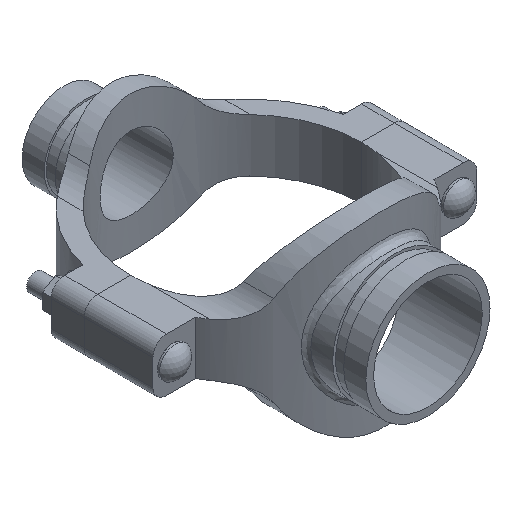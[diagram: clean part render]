
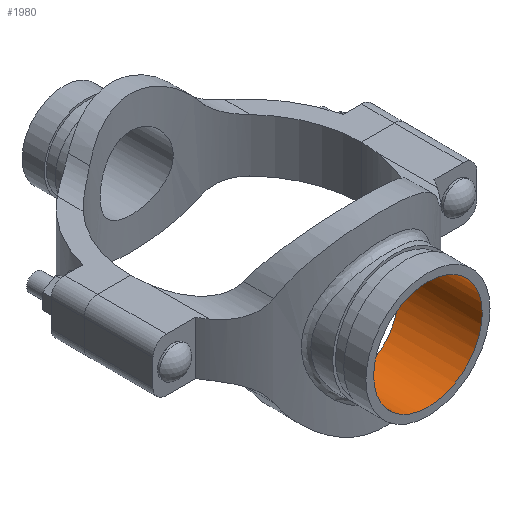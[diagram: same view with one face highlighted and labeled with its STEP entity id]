
A CAD part, isometric view. The second image highlights one B-rep face of the part: STEP entity #1980.
In plain terms, the highlighted cylindrical face has radius 38.894 mm (diameter 77.787 mm), a full revolution.
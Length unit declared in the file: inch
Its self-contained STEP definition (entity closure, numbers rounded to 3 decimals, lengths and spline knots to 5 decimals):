
#50=B_SPLINE_CURVE_WITH_KNOTS('',3,(#4024,#4025,#4026,#4027,#4028,#4029,
#4030,#4031,#4032,#4033,#4034,#4035,#4036,#4037,#4038,#4039,#4040,#4041,
#4042,#4043,#4044,#4045,#4046,#4047,#4048,#4049,#4050,#4051,#4052,#4053,
#4054,#4055,#4056,#4057,#4058,#4059,#4060,#4061,#4062,#4063,#4064,#4065,
#4066,#4067,#4068,#4069,#4070,#4071,#4072,#4073,#4074,#4075,#4076,#4077,
#4078,#4079,#4080,#4081,#4082,#4083,#4084,#4085,#4086,#4087,#4088,#4089),
 .UNSPECIFIED.,.T.,.F.,(4,2,2,2,2,2,2,2,2,2,2,2,2,2,2,2,2,2,2,2,2,2,2,2,
2,2,2,2,2,2,2,2,4),(0.,0.74639,1.49279,2.23918,
2.98558,3.73042,4.47526,5.2201,5.96494,
6.70978,7.45462,8.19946,8.9443,9.6907,
10.43709,11.18349,11.92988,12.67628,13.42267,
14.16907,14.91546,15.6603,16.40514,17.14998,
17.89482,18.63966,19.3845,20.12935,20.87419,
21.62058,22.36698,23.11337,23.85977),
 .UNSPECIFIED.);
#95=CYLINDRICAL_SURFACE('',#2217,1.53125);
#212=FACE_OUTER_BOUND('',#334,.T.);
#334=EDGE_LOOP('',(#1592,#1593,#1594,#1595));
#484=LINE('',#4023,#632);
#632=VECTOR('',#2682,1.53125);
#734=CIRCLE('',#2218,1.53125);
#899=VERTEX_POINT('',#4020);
#900=VERTEX_POINT('',#4022);
#1144=EDGE_CURVE('',#899,#899,#734,.T.);
#1145=EDGE_CURVE('',#899,#900,#484,.T.);
#1146=EDGE_CURVE('',#900,#900,#50,.T.);
#1592=ORIENTED_EDGE('',*,*,#1144,.F.);
#1593=ORIENTED_EDGE('',*,*,#1145,.T.);
#1594=ORIENTED_EDGE('',*,*,#1146,.F.);
#1595=ORIENTED_EDGE('',*,*,#1145,.F.);
#1980=ADVANCED_FACE('',(#212),#95,.F.);
#2217=AXIS2_PLACEMENT_3D('',#4019,#2678,#2679);
#2218=AXIS2_PLACEMENT_3D('',#4021,#2680,#2681);
#2678=DIRECTION('center_axis',(0.,-1.,0.));
#2679=DIRECTION('ref_axis',(-1.,0.,0.));
#2680=DIRECTION('center_axis',(0.,-1.,0.));
#2681=DIRECTION('ref_axis',(-1.,0.,0.));
#2682=DIRECTION('',(0.,-1.,0.));
#4019=CARTESIAN_POINT('Origin',(0.,5.13,0.));
#4020=CARTESIAN_POINT('',(1.53125,5.13,0.));
#4021=CARTESIAN_POINT('Origin',(0.,5.13,0.));
#4022=CARTESIAN_POINT('',(1.53125,2.86667,0.));
#4023=CARTESIAN_POINT('',(1.53125,5.13,0.));
#4024=CARTESIAN_POINT('Ctrl Pts',(1.53125,2.86667,0.));
#4025=CARTESIAN_POINT('Ctrl Pts',(1.53125,2.86667,-0.09795));
#4026=CARTESIAN_POINT('Ctrl Pts',(1.5217,2.87183,-0.19863));
#4027=CARTESIAN_POINT('Ctrl Pts',(1.48216,2.89244,-0.39777));
#4028=CARTESIAN_POINT('Ctrl Pts',(1.45219,2.90784,-0.49625));
#4029=CARTESIAN_POINT('Ctrl Pts',(1.37364,2.94576,-0.68428));
#4030=CARTESIAN_POINT('Ctrl Pts',(1.325,2.96826,-0.77401));
#4031=CARTESIAN_POINT('Ctrl Pts',(1.21316,3.0157,-0.93965));
#4032=CARTESIAN_POINT('Ctrl Pts',(1.14995,3.04059,-1.01556));
#4033=CARTESIAN_POINT('Ctrl Pts',(1.0157,3.08803,-1.14981));
#4034=CARTESIAN_POINT('Ctrl Pts',(0.93986,3.11232,-1.21301));
#4035=CARTESIAN_POINT('Ctrl Pts',(0.77419,3.15761,-1.3249));
#4036=CARTESIAN_POINT('Ctrl Pts',(0.68436,3.17857,-1.3736));
#4037=CARTESIAN_POINT('Ctrl Pts',(0.49612,3.21334,-1.45224));
#4038=CARTESIAN_POINT('Ctrl Pts',(0.39754,3.22714,-1.48223));
#4039=CARTESIAN_POINT('Ctrl Pts',(0.19836,3.24548,-1.52174));
#4040=CARTESIAN_POINT('Ctrl Pts',(0.09775,3.25,-1.53125));
#4041=CARTESIAN_POINT('Ctrl Pts',(-0.09775,3.25,-1.53125));
#4042=CARTESIAN_POINT('Ctrl Pts',(-0.19836,3.24548,-1.52174));
#4043=CARTESIAN_POINT('Ctrl Pts',(-0.39754,3.22714,-1.48223));
#4044=CARTESIAN_POINT('Ctrl Pts',(-0.49612,3.21334,-1.45224));
#4045=CARTESIAN_POINT('Ctrl Pts',(-0.68436,3.17857,-1.3736));
#4046=CARTESIAN_POINT('Ctrl Pts',(-0.77419,3.15761,-1.3249));
#4047=CARTESIAN_POINT('Ctrl Pts',(-0.93986,3.11232,-1.21301));
#4048=CARTESIAN_POINT('Ctrl Pts',(-1.0157,3.08803,-1.14981));
#4049=CARTESIAN_POINT('Ctrl Pts',(-1.14995,3.04059,-1.01556));
#4050=CARTESIAN_POINT('Ctrl Pts',(-1.21316,3.0157,-0.93965));
#4051=CARTESIAN_POINT('Ctrl Pts',(-1.325,2.96826,-0.77401));
#4052=CARTESIAN_POINT('Ctrl Pts',(-1.37364,2.94576,-0.68428));
#4053=CARTESIAN_POINT('Ctrl Pts',(-1.45219,2.90784,-0.49625));
#4054=CARTESIAN_POINT('Ctrl Pts',(-1.48216,2.89244,-0.39777));
#4055=CARTESIAN_POINT('Ctrl Pts',(-1.5217,2.87183,-0.19863));
#4056=CARTESIAN_POINT('Ctrl Pts',(-1.53125,2.86667,-0.09795));
#4057=CARTESIAN_POINT('Ctrl Pts',(-1.53125,2.86667,0.09795));
#4058=CARTESIAN_POINT('Ctrl Pts',(-1.5217,2.87183,0.19863));
#4059=CARTESIAN_POINT('Ctrl Pts',(-1.48216,2.89244,0.39777));
#4060=CARTESIAN_POINT('Ctrl Pts',(-1.45219,2.90784,0.49625));
#4061=CARTESIAN_POINT('Ctrl Pts',(-1.37364,2.94576,0.68428));
#4062=CARTESIAN_POINT('Ctrl Pts',(-1.325,2.96826,0.77401));
#4063=CARTESIAN_POINT('Ctrl Pts',(-1.21316,3.0157,0.93965));
#4064=CARTESIAN_POINT('Ctrl Pts',(-1.14995,3.04059,1.01556));
#4065=CARTESIAN_POINT('Ctrl Pts',(-1.0157,3.08803,1.14981));
#4066=CARTESIAN_POINT('Ctrl Pts',(-0.93986,3.11232,1.21301));
#4067=CARTESIAN_POINT('Ctrl Pts',(-0.77419,3.15761,1.3249));
#4068=CARTESIAN_POINT('Ctrl Pts',(-0.68436,3.17857,1.3736));
#4069=CARTESIAN_POINT('Ctrl Pts',(-0.49612,3.21334,1.45224));
#4070=CARTESIAN_POINT('Ctrl Pts',(-0.39754,3.22714,1.48223));
#4071=CARTESIAN_POINT('Ctrl Pts',(-0.19836,3.24548,1.52174));
#4072=CARTESIAN_POINT('Ctrl Pts',(-0.09775,3.25,1.53125));
#4073=CARTESIAN_POINT('Ctrl Pts',(0.09775,3.25,1.53125));
#4074=CARTESIAN_POINT('Ctrl Pts',(0.19836,3.24548,1.52174));
#4075=CARTESIAN_POINT('Ctrl Pts',(0.39754,3.22714,1.48223));
#4076=CARTESIAN_POINT('Ctrl Pts',(0.49612,3.21334,1.45224));
#4077=CARTESIAN_POINT('Ctrl Pts',(0.68436,3.17857,1.3736));
#4078=CARTESIAN_POINT('Ctrl Pts',(0.77419,3.15761,1.3249));
#4079=CARTESIAN_POINT('Ctrl Pts',(0.93986,3.11232,1.21301));
#4080=CARTESIAN_POINT('Ctrl Pts',(1.0157,3.08803,1.14981));
#4081=CARTESIAN_POINT('Ctrl Pts',(1.14995,3.04059,1.01556));
#4082=CARTESIAN_POINT('Ctrl Pts',(1.21316,3.0157,0.93965));
#4083=CARTESIAN_POINT('Ctrl Pts',(1.325,2.96826,0.77401));
#4084=CARTESIAN_POINT('Ctrl Pts',(1.37364,2.94576,0.68428));
#4085=CARTESIAN_POINT('Ctrl Pts',(1.45219,2.90784,0.49625));
#4086=CARTESIAN_POINT('Ctrl Pts',(1.48216,2.89244,0.39777));
#4087=CARTESIAN_POINT('Ctrl Pts',(1.5217,2.87183,0.19863));
#4088=CARTESIAN_POINT('Ctrl Pts',(1.53125,2.86667,0.09795));
#4089=CARTESIAN_POINT('Ctrl Pts',(1.53125,2.86667,0.));
